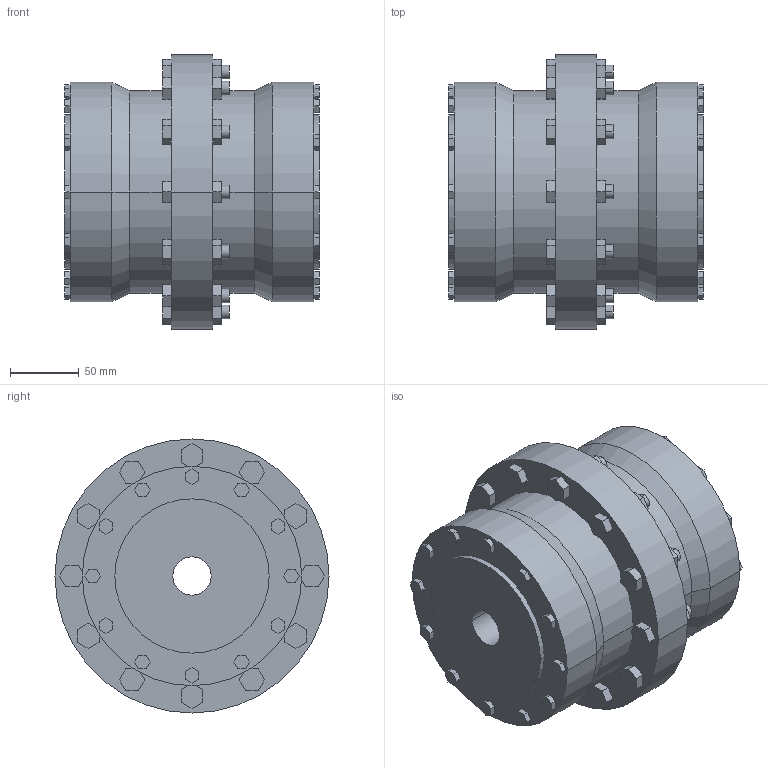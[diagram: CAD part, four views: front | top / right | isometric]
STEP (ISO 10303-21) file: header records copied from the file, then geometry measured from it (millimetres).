
FILE_DESCRIPTION((''),'2;1');
FILE_NAME('A18978000-0_ASM','2018-09-26T',('AB_Roschiwal'),('RENK AG'),'PRO/ENGINEER BY PARAMETRIC TECHNOLOGY CORPORATION, 2015440','PRO/ENGINEER BY PARAMETRIC TECHNOLOGY CORPORATION, 2015440','');
FILE_SCHEMA(('CONFIG_CONTROL_DESIGN'));
Length unit declared in the file: millimetre
Products named in the file (3): SBK70_GEHAEUSE; SBK70_NABE; A18978000-0_ASM
Assembly tree (3 placements, depth 2):
  A18978000-0_ASM
    SBK70_GEHAEUSE
    SBK70_NABE  x2
Bounding box: 186 x 200 x 200 mm (x, y, z)
Volume: 3284104.4 mm3; surface area: 371989.8 mm2
Topology: 3 solids, 3 shells, 422 faces, 1036 edges, 688 vertices
Faces by surface type: plane 362, cylinder 56, cone 4
Entity records: 12052 total; most frequent: CARTESIAN_POINT 2100, ORIENTED_EDGE 2024, DIRECTION 1940, EDGE_CURVE 1012, VECTOR 916, LINE 916, VERTEX_POINT 672, AXIS2_PLACEMENT_3D 512
